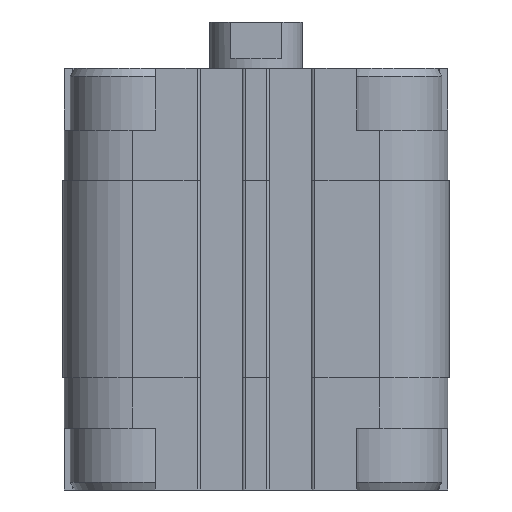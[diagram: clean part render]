
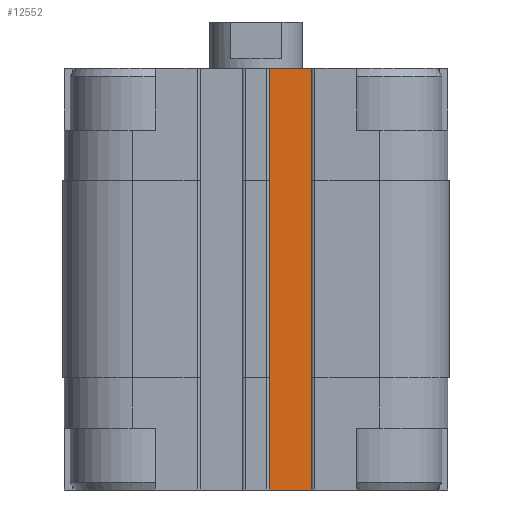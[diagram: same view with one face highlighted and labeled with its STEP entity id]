
A CAD part, front view. The second image highlights one B-rep face of the part: STEP entity #12552.
In plain terms, the highlighted planar face has unit normal (0, -1, 0).
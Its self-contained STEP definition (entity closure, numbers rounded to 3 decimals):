
#503 = ORIENTED_EDGE ( 'NONE', *, *, #18829, .F. ) ;
#562 = ORIENTED_EDGE ( 'NONE', *, *, #20898, .T. ) ;
#2891 = CARTESIAN_POINT ( 'NONE',  ( 1.5, -19.9, -14.5 ) ) ;
#3913 = EDGE_CURVE ( 'NONE', #14142, #4356, #15009, .T. ) ;
#4117 = DIRECTION ( 'NONE',  ( 0., -1., 0. ) ) ;
#4240 = PLANE ( 'NONE',  #5573 ) ;
#4356 = VERTEX_POINT ( 'NONE', #8430 ) ;
#5573 = AXIS2_PLACEMENT_3D ( 'NONE', #2891, #4117, #6126 ) ;
#5639 = VECTOR ( 'NONE', #20354, 1000. ) ;
#6115 = LINE ( 'NONE', #12974, #13807 ) ;
#6126 = DIRECTION ( 'NONE',  ( -1., 0., 0. ) ) ;
#8332 = LINE ( 'NONE', #13628, #5639 ) ;
#8430 = CARTESIAN_POINT ( 'NONE',  ( 7.5, -19.9, 0. ) ) ;
#9096 = ORIENTED_EDGE ( 'NONE', *, *, #20459, .T. ) ;
#9686 = CARTESIAN_POINT ( 'NONE',  ( 1.5, -19.9, -54.5 ) ) ;
#11903 = LINE ( 'NONE', #13264, #19948 ) ;
#12552 = ADVANCED_FACE ( 'NONE', ( #16469 ), #4240, .T. ) ;
#12974 = CARTESIAN_POINT ( 'NONE',  ( 1.5, -19.9, -14.5 ) ) ;
#13204 = EDGE_LOOP ( 'NONE', ( #16114, #503, #9096, #562 ) ) ;
#13264 = CARTESIAN_POINT ( 'NONE',  ( 7.5, -19.9, -14.5 ) ) ;
#13628 = CARTESIAN_POINT ( 'NONE',  ( 1.5, -19.9, -54.5 ) ) ;
#13807 = VECTOR ( 'NONE', #20045, 1000. ) ;
#14142 = VERTEX_POINT ( 'NONE', #16444 ) ;
#14419 = VECTOR ( 'NONE', #21964, 1000. ) ;
#15009 = LINE ( 'NONE', #19829, #14419 ) ;
#15444 = VERTEX_POINT ( 'NONE', #9686 ) ;
#15746 = VERTEX_POINT ( 'NONE', #19648 ) ;
#16114 = ORIENTED_EDGE ( 'NONE', *, *, #3913, .F. ) ;
#16444 = CARTESIAN_POINT ( 'NONE',  ( 1.5, -19.9, 0. ) ) ;
#16469 = FACE_OUTER_BOUND ( 'NONE', #13204, .T. ) ;
#18745 = DIRECTION ( 'NONE',  ( 0., 0., 1. ) ) ;
#18829 = EDGE_CURVE ( 'NONE', #15444, #14142, #6115, .T. ) ;
#19648 = CARTESIAN_POINT ( 'NONE',  ( 7.5, -19.9, -54.5 ) ) ;
#19829 = CARTESIAN_POINT ( 'NONE',  ( 1.5, -19.9, 0. ) ) ;
#19948 = VECTOR ( 'NONE', #18745, 1000. ) ;
#20045 = DIRECTION ( 'NONE',  ( 0., 0., 1. ) ) ;
#20354 = DIRECTION ( 'NONE',  ( 1., 0., 0. ) ) ;
#20459 = EDGE_CURVE ( 'NONE', #15444, #15746, #8332, .T. ) ;
#20898 = EDGE_CURVE ( 'NONE', #15746, #4356, #11903, .T. ) ;
#21964 = DIRECTION ( 'NONE',  ( 1., 0., 0. ) ) ;
